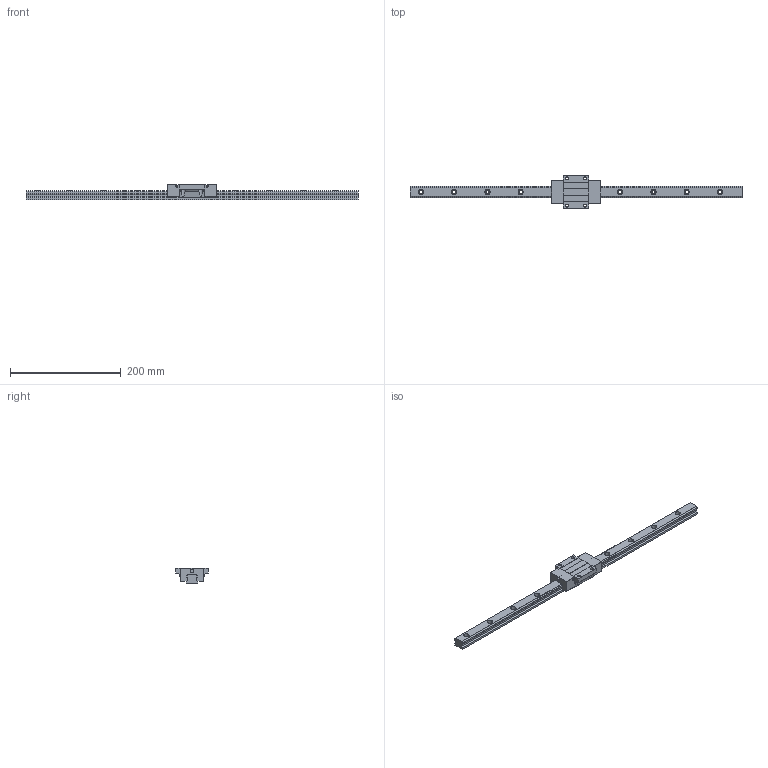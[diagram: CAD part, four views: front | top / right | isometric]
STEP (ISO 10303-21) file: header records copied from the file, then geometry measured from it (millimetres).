
FILE_DESCRIPTION (( 'STEP AP203' ), '1' );
FILE_NAME ('TRS20FN-WZ.STEP', '2024-05-22T02:39:35', ( '' ), ( '' ), 'SwSTEP 2.0', 'SolidWorks 2022', '' );
FILE_SCHEMA (( 'CONFIG_CONTROL_DESIGN' ));
Length unit declared in the file: millimetre
Products named in the file (1): TRS20FN-WZ
Bounding box: 600 x 59 x 28 mm (x, y, z)
Volume: 239382.4 mm3; surface area: 67316.9 mm2
Topology: 2 solids, 2 shells, 234 faces, 618 edges, 400 vertices
Faces by surface type: cylinder 124, plane 106, sphere 4
Entity records: 7573 total; most frequent: CARTESIAN_POINT 1509, DIRECTION 1284, ORIENTED_EDGE 1228, EDGE_CURVE 614, AXIS2_PLACEMENT_3D 459, VERTEX_POINT 400, VECTOR 366, LINE 366
